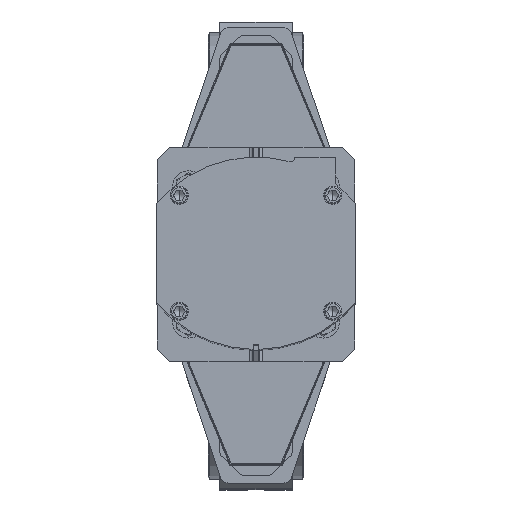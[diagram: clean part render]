
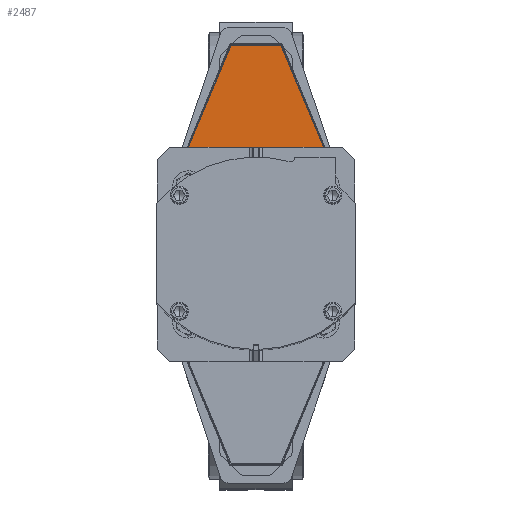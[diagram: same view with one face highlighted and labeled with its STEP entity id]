
A CAD part, top view. The second image highlights one B-rep face of the part: STEP entity #2487.
In plain terms, the highlighted planar face has unit normal (0, 0, 1).
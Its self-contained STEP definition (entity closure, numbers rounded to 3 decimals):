
#2487=ADVANCED_FACE('',(#7875),#7876,.F.);
#7875=FACE_OUTER_BOUND('',#15543,.T.);
#7876=PLANE('',#15544);
#15543=EDGE_LOOP('',(#35171,#35172,#35173,#35174,#35175,#35176));
#15544=AXIS2_PLACEMENT_3D('',#35177,#35178,#35179);
#35171=ORIENTED_EDGE('',*,*,#48219,.T.);
#35172=ORIENTED_EDGE('',*,*,#48227,.F.);
#35173=ORIENTED_EDGE('',*,*,#48228,.F.);
#35174=ORIENTED_EDGE('',*,*,#48224,.T.);
#35175=ORIENTED_EDGE('',*,*,#48222,.T.);
#35176=ORIENTED_EDGE('',*,*,#48229,.F.);
#35177=CARTESIAN_POINT('',(58.773,172.52,1057.35));
#35178=DIRECTION('',(0.,0.,-1.));
#35179=DIRECTION('',(0.,1.,0.));
#48219=EDGE_CURVE('',#60035,#60042,#60044,.T.);
#48222=EDGE_CURVE('',#60050,#60048,#60051,.T.);
#48224=EDGE_CURVE('',#60053,#60050,#60054,.T.);
#48227=EDGE_CURVE('',#60058,#60042,#60059,.T.);
#48228=EDGE_CURVE('',#60053,#60058,#60060,.T.);
#48229=EDGE_CURVE('',#60035,#60048,#60061,.T.);
#60035=VERTEX_POINT('',#82143);
#60042=VERTEX_POINT('',#82154);
#60044=LINE('',#82157,#82158);
#60048=VERTEX_POINT('',#82163);
#60050=VERTEX_POINT('',#82166);
#60051=LINE('',#82167,#82168);
#60053=VERTEX_POINT('',#82171);
#60054=LINE('',#82172,#82173);
#60058=VERTEX_POINT('',#82179);
#60059=LINE('',#82180,#82181);
#60060=LINE('',#82182,#82183);
#60061=LINE('',#82184,#82185);
#82143=CARTESIAN_POINT('',(-29.531,248.645,1057.35));
#82154=CARTESIAN_POINT('',(-88.015,108.645,1057.35));
#82157=CARTESIAN_POINT('',(-51.13,196.942,1057.35));
#82158=VECTOR('',#97133,10.);
#82163=CARTESIAN_POINT('',(29.531,248.645,1057.35));
#82166=CARTESIAN_POINT('',(88.015,108.645,1057.35));
#82167=CARTESIAN_POINT('',(59.862,176.037,1057.35));
#82168=VECTOR('',#97136,10.);
#82171=CARTESIAN_POINT('',(88.015,96.395,1057.35));
#82172=CARTESIAN_POINT('',(88.015,248.645,1057.35));
#82173=VECTOR('',#97138,10.);
#82179=CARTESIAN_POINT('',(-88.015,96.395,1057.35));
#82180=CARTESIAN_POINT('',(-88.015,248.645,1057.35));
#82181=VECTOR('',#97141,10.);
#82182=CARTESIAN_POINT('',(-88.015,96.395,1057.35));
#82183=VECTOR('',#97142,10.);
#82184=CARTESIAN_POINT('',(-30.,248.645,1057.35));
#82185=VECTOR('',#97143,10.);
#97133=DIRECTION('',(-0.385,-0.923,0.));
#97136=DIRECTION('',(-0.385,0.923,0.));
#97138=DIRECTION('',(0.,1.,0.));
#97141=DIRECTION('',(0.,1.,0.));
#97142=DIRECTION('',(-1.,0.,0.));
#97143=DIRECTION('',(1.,0.,0.));
